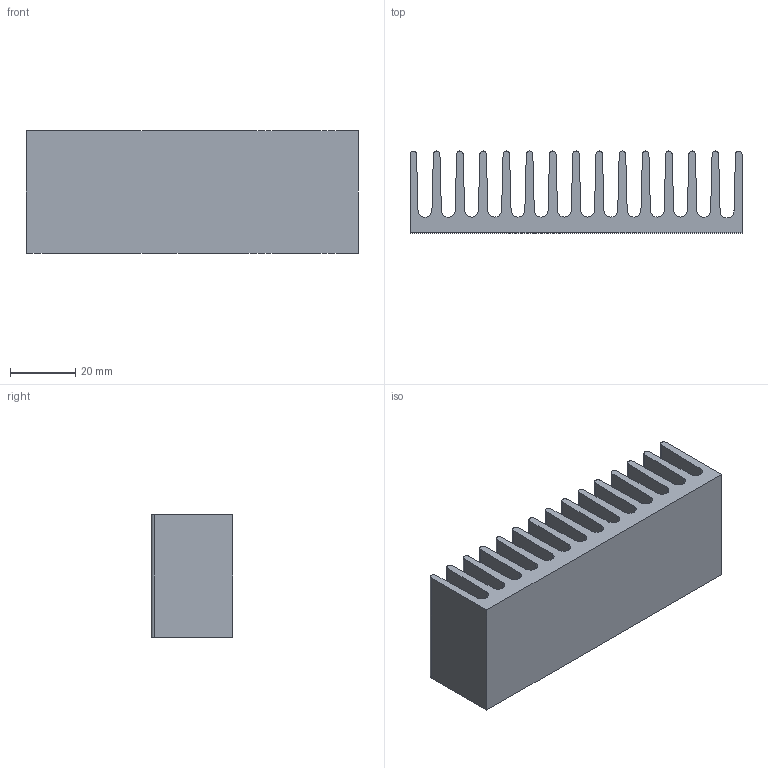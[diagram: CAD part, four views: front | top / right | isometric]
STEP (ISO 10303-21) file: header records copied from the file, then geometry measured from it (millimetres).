
FILE_DESCRIPTION (( 'STEP AP214' ), '1' );
FILE_NAME ('PR297.STEP', '2013-07-10T14:42:11', ( '' ), ( '' ), 'SwSTEP 2.0', 'SolidWorks 2013', '' );
FILE_SCHEMA (( 'AUTOMOTIVE_DESIGN' ));
Length unit declared in the file: millimetre
Products named in the file (1): PR297
Bounding box: 101.5 x 25.02 x 37.5 mm (x, y, z)
Volume: 46736.5 mm3; surface area: 31337.3 mm2
Topology: 1 solids, 1 shells, 70 faces, 204 edges, 136 vertices
Faces by surface type: cylinder 37, plane 33
Entity records: 2376 total; most frequent: DIRECTION 420, CARTESIAN_POINT 411, ORIENTED_EDGE 408, EDGE_CURVE 204, AXIS2_PLACEMENT_3D 145, VERTEX_POINT 136, LINE 130, VECTOR 130
